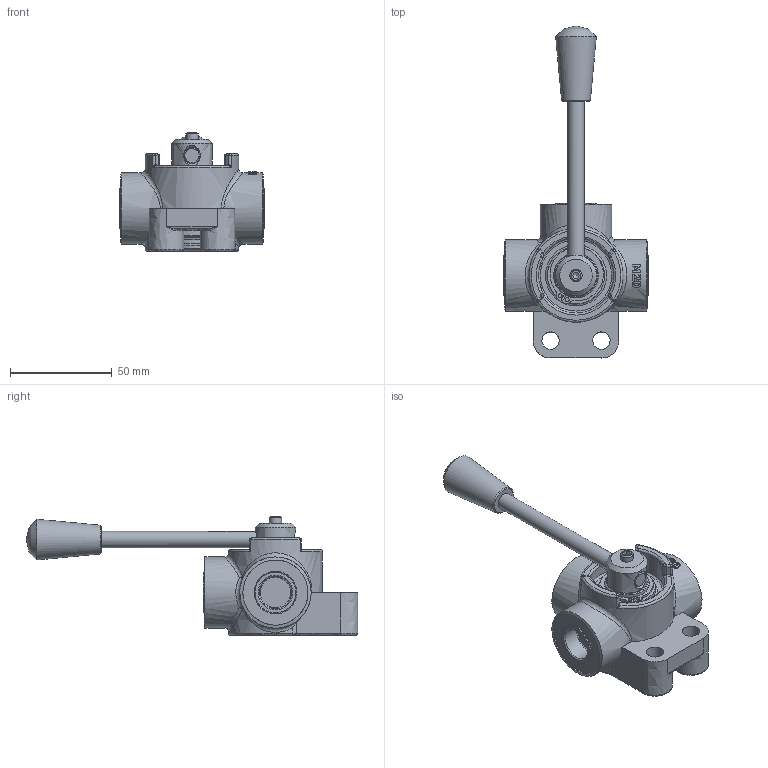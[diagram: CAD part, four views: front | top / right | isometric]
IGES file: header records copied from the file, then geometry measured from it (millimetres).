
Global section: file name: No Iges File Name specified; native system: Autodesk Inventor 2013; preprocessor: AutoDesk Inventor Iges Exporter R2013; author: christian.scardovi; date: 20240903.083207; units: millimetre
Bounding box: 71 x 163 x 58.25 mm (x, y, z)
Volume: 122908.6 mm3; surface area: 29022.4 mm2
Topology: 1 solids, 1 shells, 312 faces, 758 edges, 449 vertices
Faces by surface type: bspline 312
